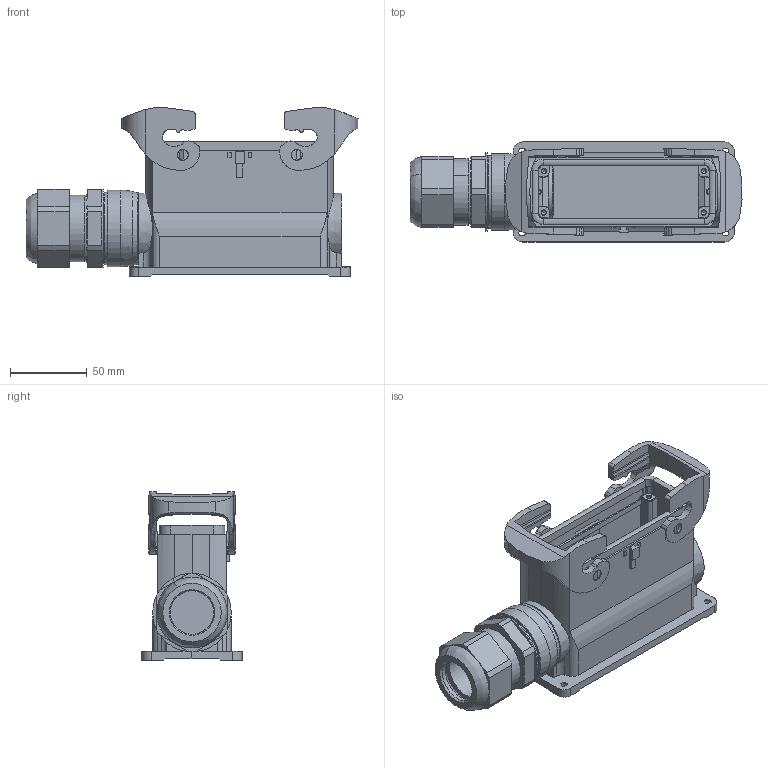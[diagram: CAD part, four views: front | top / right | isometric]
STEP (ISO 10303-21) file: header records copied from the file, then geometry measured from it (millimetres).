
FILE_DESCRIPTION(/* description */ (''),/* implementation_level */ '2;1');
FILE_NAME(/* name */ '100769437ugm000_b.stp',/* time_stamp */ '2022-03-12T07:39:34+01:00',/* author */ (''),/* organization */ (''),/* preprocessor_version */ 'ST-DEVELOPER v16.7',/* originating_system */ 'SIEMENS PLM Software NX 1911',/* authorisation */ '');
FILE_SCHEMA (('AUTOMOTIVE_DESIGN { 1 0 10303 214 3 1 1 1 }'));
Length unit declared in the file: millimetre
Products named in the file (1): 100769437ugm000_b
Bounding box: 215.78 x 65 x 109.79 mm (x, y, z)
Volume: 302706.5 mm3; surface area: 117163 mm2
Topology: 3 solids, 3 shells, 745 faces, 2224 edges, 1598 vertices
Faces by surface type: plane 425, cylinder 205, cone 92, revolution 8, bspline 7, torus 6, extrusion 2
Full cylindrical faces by diameter (mm): 3 x4, 3.4 x4, 3.5 x4, 7.2 x4, 30 x1, 40 x1, 46.4 x1, 47 x1, 49.95 x1
Entity records: 26770 total; most frequent: CARTESIAN_POINT 5674, ORIENTED_EDGE 4146, DIRECTION 4109, EDGE_CURVE 2073, AXIS2_PLACEMENT_3D 1418, VERTEX_POINT 1413, VECTOR 1265, LINE 1263
